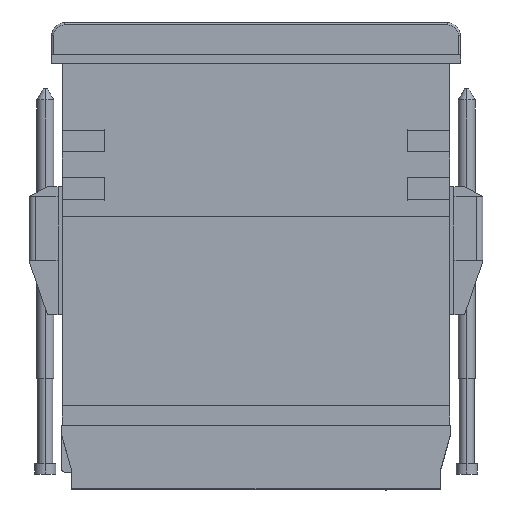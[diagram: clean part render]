
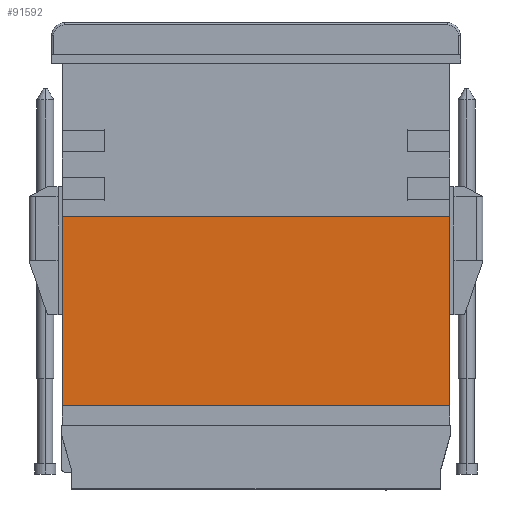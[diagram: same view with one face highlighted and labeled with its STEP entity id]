
A CAD part, top view. The second image highlights one B-rep face of the part: STEP entity #91592.
In plain terms, the highlighted planar face has unit normal (0, 0, 1).
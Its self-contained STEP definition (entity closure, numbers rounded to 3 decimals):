
#84645=DIRECTION('',(0.,-1.,0.));
#84646=VECTOR('',#84645,44.5);
#84647=CARTESIAN_POINT('',(-45.5,49.,21.8));
#84648=LINE('',#84647,#84646);
#85928=DIRECTION('',(0.,-1.,0.));
#85929=VECTOR('',#85928,44.5);
#85930=CARTESIAN_POINT('',(45.5,49.,21.8));
#85931=LINE('',#85930,#85929);
#86677=DIRECTION('',(1.,0.,0.));
#86678=VECTOR('',#86677,91.);
#86679=CARTESIAN_POINT('',(-45.5,49.,21.8));
#86680=LINE('',#86679,#86678);
#86684=DIRECTION('',(-1.,0.,0.));
#86685=VECTOR('',#86684,91.);
#86686=CARTESIAN_POINT('',(45.5,4.5,21.8));
#86687=LINE('',#86686,#86685);
#89398=CARTESIAN_POINT('',(-45.5,49.,21.8));
#89399=CARTESIAN_POINT('',(-45.5,4.5,21.8));
#89400=VERTEX_POINT('',#89398);
#89401=VERTEX_POINT('',#89399);
#89402=CARTESIAN_POINT('',(45.5,49.,21.8));
#89403=CARTESIAN_POINT('',(45.5,4.5,21.8));
#89404=VERTEX_POINT('',#89402);
#89405=VERTEX_POINT('',#89403);
#91580=CARTESIAN_POINT('',(0.,0.,21.8));
#91581=DIRECTION('',(0.,0.,-1.));
#91582=DIRECTION('',(0.,-1.,0.));
#91583=AXIS2_PLACEMENT_3D('',#91580,#91581,#91582);
#91584=PLANE('',#91583);
#91585=ORIENTED_EDGE('',*,*,#90092,.F.);
#91587=ORIENTED_EDGE('',*,*,#91586,.T.);
#91588=ORIENTED_EDGE('',*,*,#90790,.T.);
#91589=ORIENTED_EDGE('',*,*,#91573,.T.);
#91590=EDGE_LOOP('',(#91585,#91587,#91588,#91589));
#91591=FACE_OUTER_BOUND('',#91590,.F.);
#90092=EDGE_CURVE('',#89400,#89401,#84648,.T.);
#90790=EDGE_CURVE('',#89404,#89405,#85931,.T.);
#91573=EDGE_CURVE('',#89405,#89401,#86687,.T.);
#91586=EDGE_CURVE('',#89400,#89404,#86680,.T.);
#91592=ADVANCED_FACE('',(#91591),#91584,.F.);
